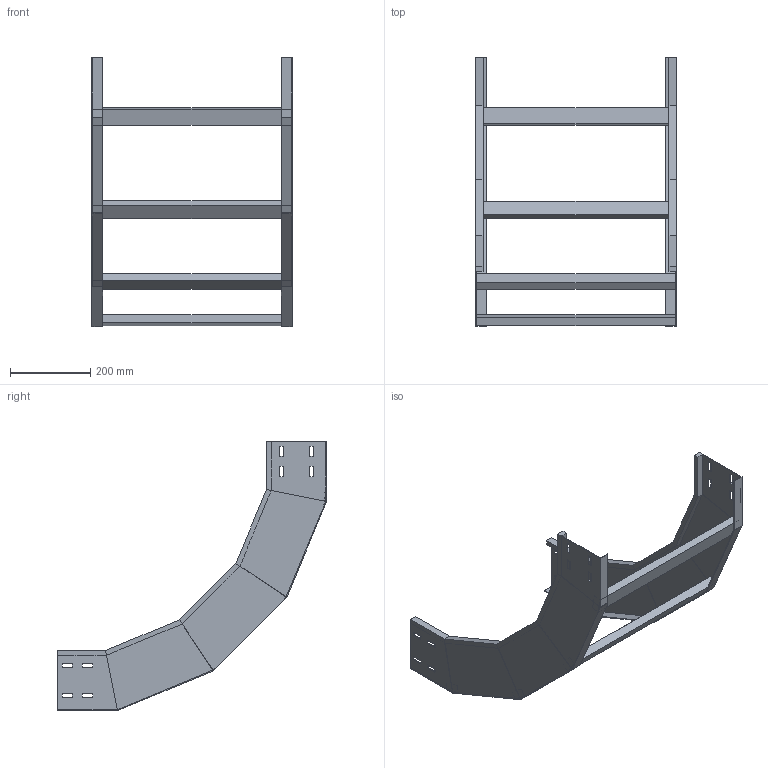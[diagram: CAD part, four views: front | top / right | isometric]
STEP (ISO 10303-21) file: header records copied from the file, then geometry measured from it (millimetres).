
FILE_DESCRIPTION (( 'STEP AP214' ), '1' );
FILE_NAME ('30J5F500.step', '2025-02-21T16:27:26', ( '' ), ( '' ), 'SwSTEP 2.0', 'SolidWorks 2023', '' );
FILE_SCHEMA (( 'AUTOMOTIVE_DESIGN' ));
Length unit declared in the file: millimetre
Products named in the file (3): TRAVERSINO_500; 30J5F500; LONGH.SALITA_90°_H150_R500
Assembly tree (6 placements, depth 2):
  30J5F500
    LONGH.SALITA_90°_H150_R500  x2
    TRAVERSINO_500  x4
Bounding box: 500 x 671.54 x 671.54 mm (x, y, z)
Volume: 2607548 mm3; surface area: 987744.2 mm2
Topology: 6 solids, 6 shells, 172 faces, 416 edges, 256 vertices
Faces by surface type: plane 172
Entity records: 2416 total; most frequent: CARTESIAN_POINT 405, ORIENTED_EDGE 392, DIRECTION 374, EDGE_CURVE 196, LINE 196, VECTOR 196, VERTEX_POINT 120, EDGE_LOOP 96
